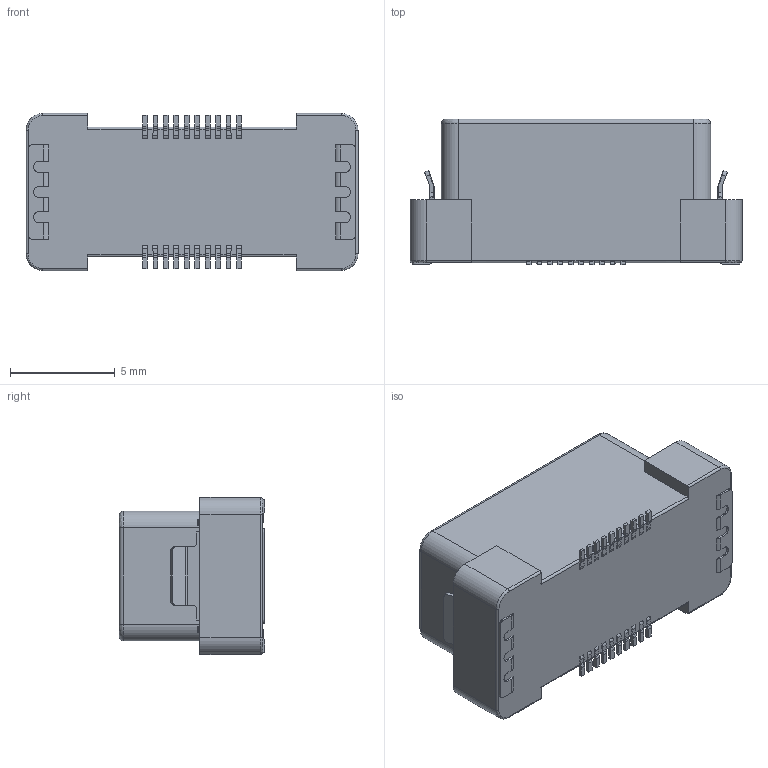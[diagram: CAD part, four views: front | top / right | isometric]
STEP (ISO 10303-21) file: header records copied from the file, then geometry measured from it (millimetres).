
FILE_DESCRIPTION (( 'STEP AP214' ), '1' );
FILE_NAME ('PLUG H15 20p without boss.STEP', '2020-12-01T02:02:28', ( '' ), ( '' ), 'SwSTEP 2.0', 'SolidWorks 2017', '' );
FILE_SCHEMA (( 'AUTOMOTIVE_DESIGN' ));
Length unit declared in the file: millimetre
Products named in the file (1): PLUG H15 20p without boss
Bounding box: 15.84 x 6.95 x 7.5 mm (x, y, z)
Volume: 495 mm3; surface area: 658.9 mm2
Topology: 1 solids, 1 shells, 762 faces, 2141 edges, 1386 vertices
Faces by surface type: plane 447, cylinder 255, bspline 56, cone 4
Entity records: 25445 total; most frequent: CARTESIAN_POINT 5795, ORIENTED_EDGE 4274, DIRECTION 3993, EDGE_CURVE 2137, VECTOR 1471, LINE 1471, VERTEX_POINT 1386, AXIS2_PLACEMENT_3D 1261
